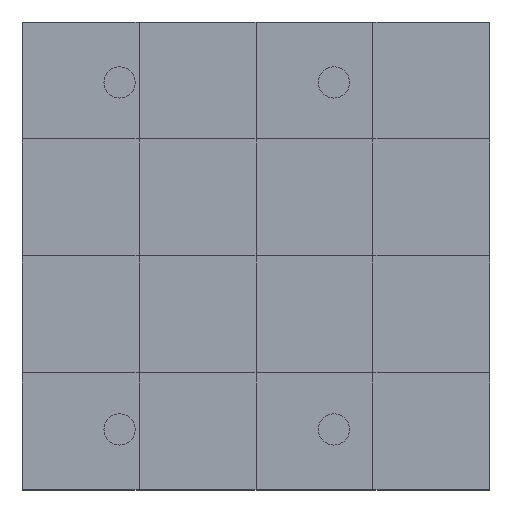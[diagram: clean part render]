
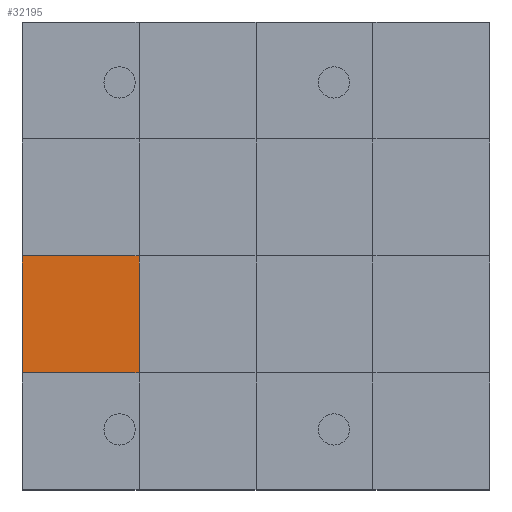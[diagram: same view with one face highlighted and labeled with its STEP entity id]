
A CAD part, top view. The second image highlights one B-rep face of the part: STEP entity #32195.
In plain terms, the highlighted planar face has unit normal (0, 0, 1).
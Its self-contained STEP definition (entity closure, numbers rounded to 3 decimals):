
#31766 = VERTEX_POINT('',#31767);
#31767 = CARTESIAN_POINT('',(0.,3.,1.5));
#31781 = PLANE('',#31782);
#31782 = AXIS2_PLACEMENT_3D('',#31783,#31784,#31785);
#31783 = CARTESIAN_POINT('',(0.,3.,0.));
#31784 = DIRECTION('',(1.,0.,-0.));
#31785 = DIRECTION('',(0.,0.,1.));
#31807 = PLANE('',#31808);
#31808 = AXIS2_PLACEMENT_3D('',#31809,#31810,#31811);
#31809 = CARTESIAN_POINT('',(0.,0.,1.5));
#31810 = DIRECTION('',(0.,0.,1.));
#31811 = DIRECTION('',(1.,0.,-0.));
#31901 = VERTEX_POINT('',#31902);
#31902 = CARTESIAN_POINT('',(3.,3.,1.5));
#31928 = EDGE_CURVE('',#31766,#31901,#31929,.T.);
#31929 = SURFACE_CURVE('',#31930,(#31934,#31941),.PCURVE_S1.);
#31930 = LINE('',#31931,#31932);
#31931 = CARTESIAN_POINT('',(0.,3.,1.5));
#31932 = VECTOR('',#31933,1.);
#31933 = DIRECTION('',(1.,0.,-0.));
#31934 = PCURVE('',#31807,#31935);
#31935 = DEFINITIONAL_REPRESENTATION('',(#31936),#31940);
#31936 = LINE('',#31937,#31938);
#31937 = CARTESIAN_POINT('',(0.,3.));
#31938 = VECTOR('',#31939,1.);
#31939 = DIRECTION('',(1.,0.));
#31940 = ( GEOMETRIC_REPRESENTATION_CONTEXT(2) 
PARAMETRIC_REPRESENTATION_CONTEXT() REPRESENTATION_CONTEXT('2D SPACE',''
  ) );
#31941 = PCURVE('',#31942,#31947);
#31942 = PLANE('',#31943);
#31943 = AXIS2_PLACEMENT_3D('',#31944,#31945,#31946);
#31944 = CARTESIAN_POINT('',(0.,3.,1.5));
#31945 = DIRECTION('',(0.,0.,1.));
#31946 = DIRECTION('',(1.,0.,-0.));
#31947 = DEFINITIONAL_REPRESENTATION('',(#31948),#31952);
#31948 = LINE('',#31949,#31950);
#31949 = CARTESIAN_POINT('',(0.,0.));
#31950 = VECTOR('',#31951,1.);
#31951 = DIRECTION('',(1.,0.));
#31952 = ( GEOMETRIC_REPRESENTATION_CONTEXT(2) 
PARAMETRIC_REPRESENTATION_CONTEXT() REPRESENTATION_CONTEXT('2D SPACE',''
  ) );
#32018 = VERTEX_POINT('',#32019);
#32019 = CARTESIAN_POINT('',(0.,6.,1.5));
#32045 = EDGE_CURVE('',#31766,#32018,#32046,.T.);
#32046 = SURFACE_CURVE('',#32047,(#32051,#32058),.PCURVE_S1.);
#32047 = LINE('',#32048,#32049);
#32048 = CARTESIAN_POINT('',(0.,3.,1.5));
#32049 = VECTOR('',#32050,1.);
#32050 = DIRECTION('',(-0.,1.,0.));
#32051 = PCURVE('',#31781,#32052);
#32052 = DEFINITIONAL_REPRESENTATION('',(#32053),#32057);
#32053 = LINE('',#32054,#32055);
#32054 = CARTESIAN_POINT('',(1.5,0.));
#32055 = VECTOR('',#32056,1.);
#32056 = DIRECTION('',(0.,-1.));
#32057 = ( GEOMETRIC_REPRESENTATION_CONTEXT(2) 
PARAMETRIC_REPRESENTATION_CONTEXT() REPRESENTATION_CONTEXT('2D SPACE',''
  ) );
#32058 = PCURVE('',#31942,#32059);
#32059 = DEFINITIONAL_REPRESENTATION('',(#32060),#32064);
#32060 = LINE('',#32061,#32062);
#32061 = CARTESIAN_POINT('',(0.,0.));
#32062 = VECTOR('',#32063,1.);
#32063 = DIRECTION('',(0.,1.));
#32064 = ( GEOMETRIC_REPRESENTATION_CONTEXT(2) 
PARAMETRIC_REPRESENTATION_CONTEXT() REPRESENTATION_CONTEXT('2D SPACE',''
  ) );
#32195 = ADVANCED_FACE('',(#32196),#31942,.T.);
#32196 = FACE_BOUND('',#32197,.T.);
#32197 = EDGE_LOOP('',(#32198,#32199,#32200,#32228));
#32198 = ORIENTED_EDGE('',*,*,#32045,.F.);
#32199 = ORIENTED_EDGE('',*,*,#31928,.T.);
#32200 = ORIENTED_EDGE('',*,*,#32201,.T.);
#32201 = EDGE_CURVE('',#31901,#32202,#32204,.T.);
#32202 = VERTEX_POINT('',#32203);
#32203 = CARTESIAN_POINT('',(3.,6.,1.5));
#32204 = SURFACE_CURVE('',#32205,(#32209,#32216),.PCURVE_S1.);
#32205 = LINE('',#32206,#32207);
#32206 = CARTESIAN_POINT('',(3.,3.,1.5));
#32207 = VECTOR('',#32208,1.);
#32208 = DIRECTION('',(-0.,1.,0.));
#32209 = PCURVE('',#31942,#32210);
#32210 = DEFINITIONAL_REPRESENTATION('',(#32211),#32215);
#32211 = LINE('',#32212,#32213);
#32212 = CARTESIAN_POINT('',(3.,0.));
#32213 = VECTOR('',#32214,1.);
#32214 = DIRECTION('',(0.,1.));
#32215 = ( GEOMETRIC_REPRESENTATION_CONTEXT(2) 
PARAMETRIC_REPRESENTATION_CONTEXT() REPRESENTATION_CONTEXT('2D SPACE',''
  ) );
#32216 = PCURVE('',#32217,#32222);
#32217 = PLANE('',#32218);
#32218 = AXIS2_PLACEMENT_3D('',#32219,#32220,#32221);
#32219 = CARTESIAN_POINT('',(3.,3.,1.5));
#32220 = DIRECTION('',(0.,0.,1.));
#32221 = DIRECTION('',(1.,0.,-0.));
#32222 = DEFINITIONAL_REPRESENTATION('',(#32223),#32227);
#32223 = LINE('',#32224,#32225);
#32224 = CARTESIAN_POINT('',(0.,0.));
#32225 = VECTOR('',#32226,1.);
#32226 = DIRECTION('',(0.,1.));
#32227 = ( GEOMETRIC_REPRESENTATION_CONTEXT(2) 
PARAMETRIC_REPRESENTATION_CONTEXT() REPRESENTATION_CONTEXT('2D SPACE',''
  ) );
#32228 = ORIENTED_EDGE('',*,*,#32229,.F.);
#32229 = EDGE_CURVE('',#32018,#32202,#32230,.T.);
#32230 = SURFACE_CURVE('',#32231,(#32235,#32242),.PCURVE_S1.);
#32231 = LINE('',#32232,#32233);
#32232 = CARTESIAN_POINT('',(0.,6.,1.5));
#32233 = VECTOR('',#32234,1.);
#32234 = DIRECTION('',(1.,0.,-0.));
#32235 = PCURVE('',#31942,#32236);
#32236 = DEFINITIONAL_REPRESENTATION('',(#32237),#32241);
#32237 = LINE('',#32238,#32239);
#32238 = CARTESIAN_POINT('',(0.,3.));
#32239 = VECTOR('',#32240,1.);
#32240 = DIRECTION('',(1.,0.));
#32241 = ( GEOMETRIC_REPRESENTATION_CONTEXT(2) 
PARAMETRIC_REPRESENTATION_CONTEXT() REPRESENTATION_CONTEXT('2D SPACE',''
  ) );
#32242 = PCURVE('',#32243,#32248);
#32243 = PLANE('',#32244);
#32244 = AXIS2_PLACEMENT_3D('',#32245,#32246,#32247);
#32245 = CARTESIAN_POINT('',(0.,6.,1.5));
#32246 = DIRECTION('',(0.,0.,1.));
#32247 = DIRECTION('',(1.,0.,-0.));
#32248 = DEFINITIONAL_REPRESENTATION('',(#32249),#32253);
#32249 = LINE('',#32250,#32251);
#32250 = CARTESIAN_POINT('',(0.,0.));
#32251 = VECTOR('',#32252,1.);
#32252 = DIRECTION('',(1.,0.));
#32253 = ( GEOMETRIC_REPRESENTATION_CONTEXT(2) 
PARAMETRIC_REPRESENTATION_CONTEXT() REPRESENTATION_CONTEXT('2D SPACE',''
  ) );
